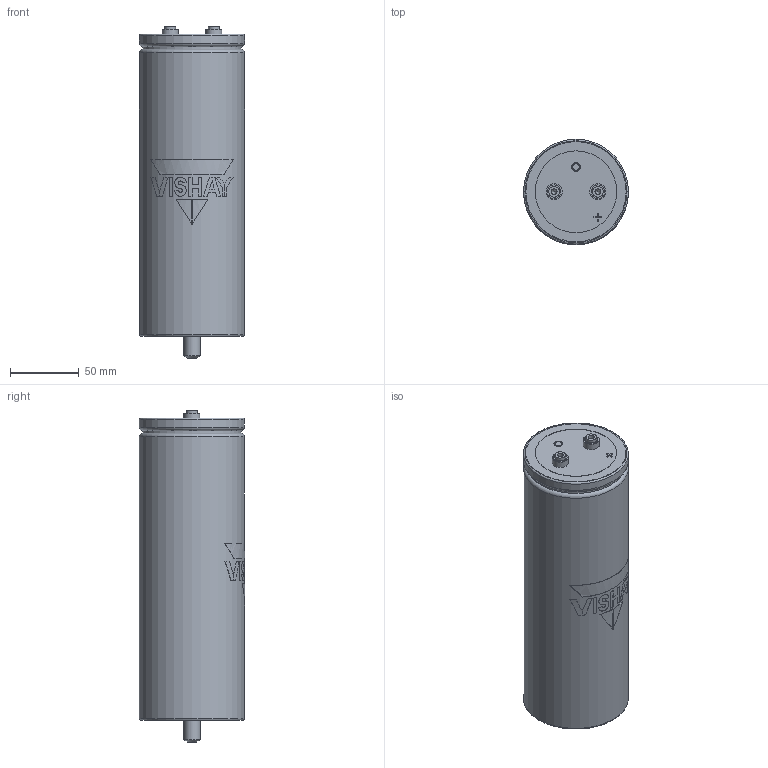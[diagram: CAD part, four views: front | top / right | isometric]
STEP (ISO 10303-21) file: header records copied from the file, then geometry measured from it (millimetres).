
FILE_DESCRIPTION(('FreeCAD Model'),'2;1');
FILE_NAME('C:/Users/tvandesteeg/Documents/Documents/FreeCAD/Stepfiles/ST capacitors/STB_HP_M5_76x220.step','2020-07-02T17:31:31',('Author'),(''), 'Open CASCADE STEP processor 7.3','FreeCAD','Unknown');
FILE_SCHEMA(('AUTOMOTIVE_DESIGN { 1 0 10303 214 1 1 1 1 }'));
Length unit declared in the file: millimetre
Products named in the file (7): VentBody; TerminalBody_(Mirror_#2); TerminalBody; STBBottomBody; Disc; LogoPrint; CanBody
Bounding box: 76.4 x 76.5 x 241.5 mm (x, y, z)
Volume: 1003878.9 mm3; surface area: 88327.1 mm2
Topology: 17 solids, 17 shells, 152 faces, 318 edges, 209 vertices
Faces by surface type: plane 94, cylinder 49, torus 5, cone 4
Full cylindrical faces by diameter (mm): 4.2 x2, 5 x2, 7.9 x2, 9.8 x6, 11.7 x2, 11.966 x1, 59.422 x3, 71.4 x1, 72 x2, 76.4 x2
Entity records: 10788 total; most frequent: CARTESIAN_POINT 3378, DIRECTION 1228, ORIENTED_EDGE 632, PCURVE 632, DEFINITIONAL_REPRESENTATION 632, LINE 542, VECTOR 542, EDGE_CURVE 316
